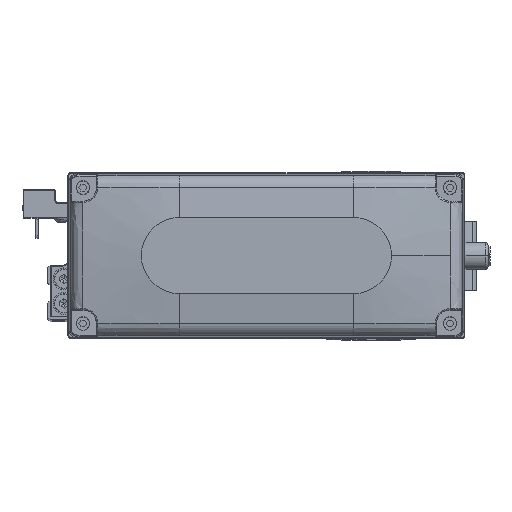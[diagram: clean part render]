
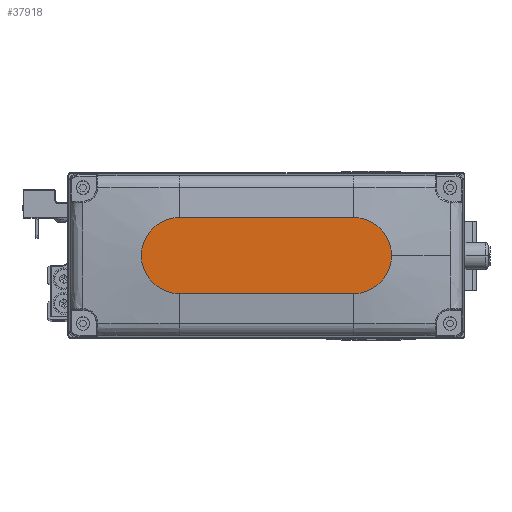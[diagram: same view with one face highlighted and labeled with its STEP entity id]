
A CAD part, top view. The second image highlights one B-rep face of the part: STEP entity #37918.
In plain terms, the highlighted planar face has unit normal (0, 0, 1).
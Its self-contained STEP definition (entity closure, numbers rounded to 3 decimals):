
#1015 = AXIS2_PLACEMENT_3D ( 'NONE', #29760, #43519, #12658 ) ;
#1056 = FACE_OUTER_BOUND ( 'NONE', #5205, .T. ) ;
#1909 = LINE ( 'NONE', #15625, #4582 ) ;
#2139 = VERTEX_POINT ( 'NONE', #31497 ) ;
#2603 = AXIS2_PLACEMENT_3D ( 'NONE', #26510, #40238, #9388 ) ;
#4582 = VECTOR ( 'NONE', #29349, 1000. ) ;
#5205 = EDGE_LOOP ( 'NONE', ( #15242, #24505, #6822, #36240, #24711 ) ) ;
#6822 = ORIENTED_EDGE ( 'NONE', *, *, #13207, .T. ) ;
#7128 = EDGE_CURVE ( 'NONE', #40081, #31627, #20411, .T. ) ;
#9111 = EDGE_CURVE ( 'NONE', #24697, #2139, #21997, .T. ) ;
#9388 = DIRECTION ( 'NONE',  ( 1., 0., 0. ) ) ;
#11396 = DIRECTION ( 'NONE',  ( 1., 0., 0. ) ) ;
#11850 = LINE ( 'NONE', #25589, #32643 ) ;
#12075 = CARTESIAN_POINT ( 'NONE',  ( 32., 14., 35. ) ) ;
#12658 = DIRECTION ( 'NONE',  ( 1., 0., 0. ) ) ;
#13207 = EDGE_CURVE ( 'NONE', #31627, #24697, #11850, .T. ) ;
#13770 = CARTESIAN_POINT ( 'NONE',  ( 32., 0., 35. ) ) ;
#13950 = AXIS2_PLACEMENT_3D ( 'NONE', #28515, #42269, #11396 ) ;
#14787 = PLANE ( 'NONE',  #13950 ) ;
#14900 = CARTESIAN_POINT ( 'NONE',  ( -32., 14., 35. ) ) ;
#15242 = ORIENTED_EDGE ( 'NONE', *, *, #37311, .T. ) ;
#15625 = CARTESIAN_POINT ( 'NONE',  ( -32., 14., 35. ) ) ;
#18034 = AXIS2_PLACEMENT_3D ( 'NONE', #13770, #27516, #41274 ) ;
#20411 = CIRCLE ( 'NONE', #1015, 14. ) ;
#21759 = CARTESIAN_POINT ( 'NONE',  ( -32., -14., 35. ) ) ;
#21997 = CIRCLE ( 'NONE', #2603, 14. ) ;
#24505 = ORIENTED_EDGE ( 'NONE', *, *, #7128, .T. ) ;
#24697 = VERTEX_POINT ( 'NONE', #31445 ) ;
#24711 = ORIENTED_EDGE ( 'NONE', *, *, #30641, .T. ) ;
#25589 = CARTESIAN_POINT ( 'NONE',  ( -32., -14., 35. ) ) ;
#26510 = CARTESIAN_POINT ( 'NONE',  ( 32., 0., 35. ) ) ;
#27516 = DIRECTION ( 'NONE',  ( 0., 0., 1. ) ) ;
#28515 = CARTESIAN_POINT ( 'NONE',  ( 0., 0., 35. ) ) ;
#29349 = DIRECTION ( 'NONE',  ( -1., 0., 0. ) ) ;
#29760 = CARTESIAN_POINT ( 'NONE',  ( -32., 0., 35. ) ) ;
#30467 = VERTEX_POINT ( 'NONE', #12075 ) ;
#30641 = EDGE_CURVE ( 'NONE', #2139, #30467, #37465, .T. ) ;
#31445 = CARTESIAN_POINT ( 'NONE',  ( 32., -14., 35. ) ) ;
#31497 = CARTESIAN_POINT ( 'NONE',  ( 46., 0., 35. ) ) ;
#31627 = VERTEX_POINT ( 'NONE', #21759 ) ;
#32643 = VECTOR ( 'NONE', #39318, 1000. ) ;
#36240 = ORIENTED_EDGE ( 'NONE', *, *, #9111, .T. ) ;
#37311 = EDGE_CURVE ( 'NONE', #30467, #40081, #1909, .T. ) ;
#37465 = CIRCLE ( 'NONE', #18034, 14. ) ;
#37918 = ADVANCED_FACE ( 'NONE', ( #1056 ), #14787, .T. ) ;
#39318 = DIRECTION ( 'NONE',  ( 1., 0., 0. ) ) ;
#40081 = VERTEX_POINT ( 'NONE', #14900 ) ;
#40238 = DIRECTION ( 'NONE',  ( 0., 0., 1. ) ) ;
#41274 = DIRECTION ( 'NONE',  ( 1., 0., 0. ) ) ;
#42269 = DIRECTION ( 'NONE',  ( 0., 0., 1. ) ) ;
#43519 = DIRECTION ( 'NONE',  ( 0., 0., 1. ) ) ;
